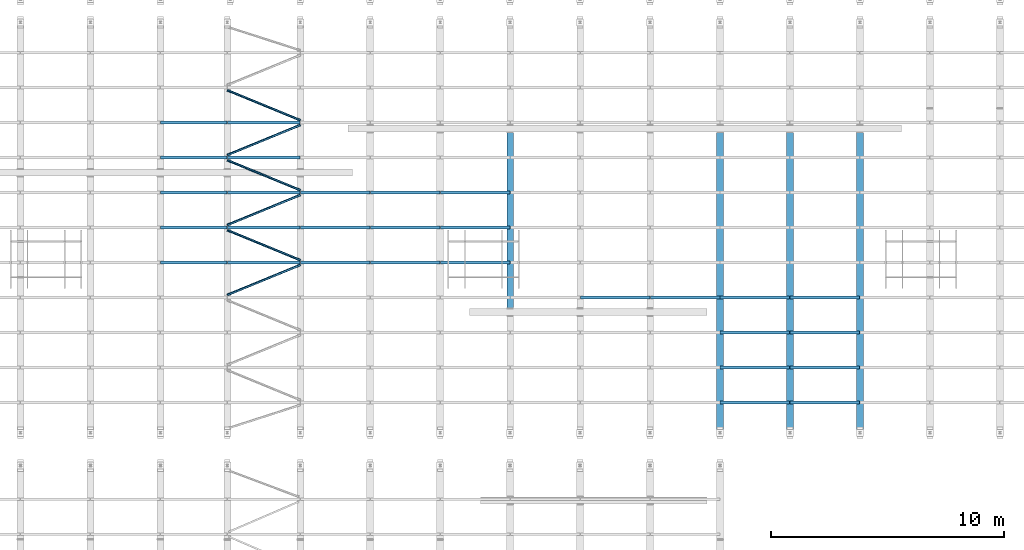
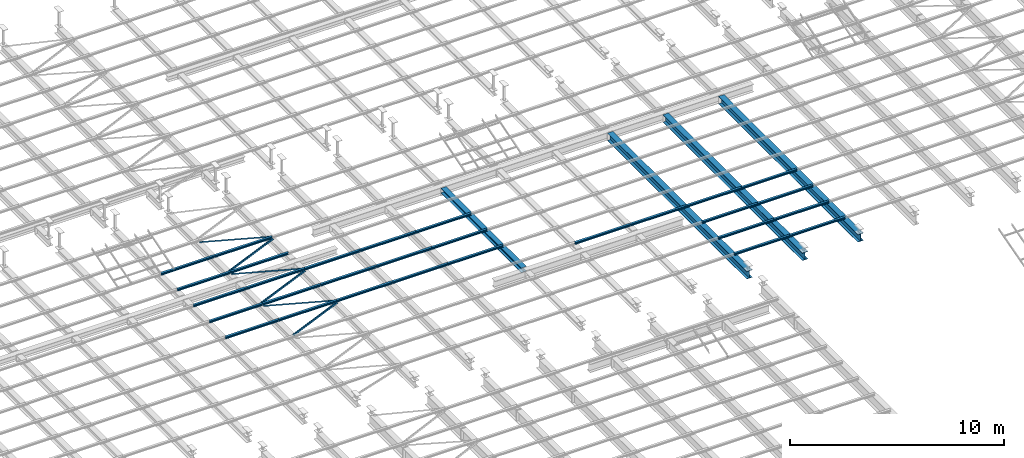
# One storey, part 60 of 139: 39 beams.
"""IFC2X3 building model written with IfcOpenShell, lengths in metres."""

from ifc_helpers import new_model, entity, si_unit, converted_unit, derived_unit, frame, origin, place, context, subcontext, project, spatial, polyline, outline, extrude, material, element, save


model = new_model("IFC2X3")

# Units and contexts
model_context = context("Model", 3, precision=1e-05, world=origin())
body_context = subcontext(model_context, "Body", "Model", "MODEL_VIEW")
ifc_project = project(units=[si_unit("LENGTHUNIT", "METRE"), si_unit("AREAUNIT", "SQUARE_METRE"), si_unit("VOLUMEUNIT", "CUBIC_METRE"), si_unit("MASSUNIT", "GRAM", prefix="KILO"), converted_unit("PLANEANGLEUNIT", "DEGREE", entity("IfcPlaneAngleMeasure", 0.0174532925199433), si_unit("PLANEANGLEUNIT", "RADIAN"), dimensions=[0, 0, 0, 0, 0, 0, 0]), derived_unit("THERMALTRANSMITTANCEUNIT", [(si_unit("POWERUNIT", "WATT"), 1), (si_unit("THERMODYNAMICTEMPERATUREUNIT", "KELVIN"), -1), (si_unit("LENGTHUNIT", "METRE"), -2)]), derived_unit("VOLUMETRICFLOWRATEUNIT", [(si_unit("LENGTHUNIT", "METRE"), 3), (converted_unit("TIMEUNIT", "hour", entity("IfcTimeMeasure", 3600.0), si_unit("TIMEUNIT", "SECOND"), dimensions=[0, 0, 1, 0, 0, 0, 0]), -1), (si_unit("LENGTHUNIT", "METRE"), -1)])], contexts=[model_context])

# Site, building, storey
site_placement = place(None, origin())
site = spatial("IfcSite", under=ifc_project, at=site_placement, Name="TWP_Speiseverteilzentrum SBW VZ II", CompositionType="ELEMENT")
building_placement = place(site_placement, origin())
building = spatial("IfcBuilding", under=site, at=building_placement, Name="Speiseverteilzentrum SBW VZ II", CompositionType="ELEMENT")
storey_placement = place(building_placement, frame((0.0, 0.0, 7.1307)))
storey = spatial("IfcBuildingStorey", under=building, at=storey_placement, Name="Wartung_FFB", CompositionType="ELEMENT", Elevation=7.1307)

# Beams
ifc_material_1 = material(Name="S235")
beam_1_placement = place(storey_placement, frame((58.0500000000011, 65.1695685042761, -0.325), z_axis=(0.0, 0.0, 1.0), x_axis=(-1.0, 0.0, 0.0)))
element("IfcBeam", 1, at=beam_1_placement, inside=storey, material=ifc_material_1, Name="Stahlträger", context=body_context, shape_type="SweptSolid", body=[
    extrude(outline(polyline([(-0.14, 0.135), (-0.14, 0.122), (-0.00400000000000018, 0.122), (-0.00400000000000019, -0.122), (-0.14, -0.122), (-0.14, -0.135), (0.14, -0.135), (0.14, -0.122), (0.00399999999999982, -0.122), (0.00399999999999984, 0.122), (0.14, 0.122), (0.14, 0.135), (-0.14, 0.135)])), frame((0.0, 0.0, 0.0), z_axis=(0.0, 1.0, 0.0), x_axis=(-1.0, 0.0, 0.0)), (0.0, 0.0, 1.0), 7.51492643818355),
])
ifc_material_2 = material(Name="S235")
beam_2_placement = place(storey_placement, frame((67.0500000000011, 52.1500000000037, -0.41), z_axis=(0.0, 0.0, 1.0), x_axis=(1.0, -2.44929359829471e-16, 0.0)))
element("IfcBeam", 2, at=beam_2_placement, inside=storey, material=ifc_material_2, Name="Stahlträger", context=body_context, shape_type="SweptSolid", body=[
    extrude(outline(polyline([(-0.15, 0.22), (-0.15, 0.199), (-0.00574999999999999, 0.199), (-0.00575000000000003, -0.199), (-0.15, -0.199), (-0.15, -0.22), (0.15, -0.22), (0.15, -0.199), (0.00574999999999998, -0.199), (0.00575000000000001, 0.199), (0.15, 0.199), (0.15, 0.22), (-0.15, 0.22)])), frame((0.0, 0.0, 0.0), z_axis=(0.0, 1.0, 0.0), x_axis=(-1.0, 0.0, 0.0)), (0.0, 0.0, 1.0), 13.0195685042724),
])
ifc_material_3 = material(Name="S235")
beam_3_placement = place(storey_placement, frame((70.0500000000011, 52.1500000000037, -0.41), z_axis=(0.0, 0.0, 1.0), x_axis=(1.0, -2.44929359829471e-16, 0.0)))
element("IfcBeam", 3, at=beam_3_placement, inside=storey, material=ifc_material_3, Name="Stahlträger", context=body_context, shape_type="SweptSolid", body=[
    extrude(outline(polyline([(-0.15, 0.22), (-0.15, 0.199), (-0.00574999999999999, 0.199), (-0.00575000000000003, -0.199), (-0.15, -0.199), (-0.15, -0.22), (0.15, -0.22), (0.15, -0.199), (0.00574999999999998, -0.199), (0.00575000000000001, 0.199), (0.15, 0.199), (0.15, 0.22), (-0.15, 0.22)])), frame((0.0, 0.0, 0.0), z_axis=(0.0, 1.0, 0.0), x_axis=(-1.0, 0.0, 0.0)), (0.0, 0.0, 1.0), 13.0195685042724),
])
ifc_material_4 = material(Name="S235")
beam_4_placement = place(storey_placement, frame((73.0500000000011, 52.1500000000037, -0.41), z_axis=(0.0, 0.0, 1.0), x_axis=(1.0, -2.44929359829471e-16, 0.0)))
element("IfcBeam", 4, at=beam_4_placement, inside=storey, material=ifc_material_4, Name="Stahlträger", context=body_context, shape_type="SweptSolid", body=[
    extrude(outline(polyline([(-0.15, 0.22), (-0.15, 0.199), (-0.00574999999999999, 0.199), (-0.00575000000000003, -0.199), (-0.15, -0.199), (-0.15, -0.22), (0.15, -0.22), (0.15, -0.199), (0.00574999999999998, -0.199), (0.00575000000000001, 0.199), (0.15, 0.199), (0.15, 0.22), (-0.15, 0.22)])), frame((0.0, 0.0, 0.0), z_axis=(0.0, 1.0, 0.0), x_axis=(-1.0, 0.0, 0.0)), (0.0, 0.0, 1.0), 13.0195685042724),
])
ifc_material_5 = material(Name="S235")
beam_5_placement = place(storey_placement, frame((49.0600000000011, 62.6011263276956, -0.133), z_axis=(0.0, 0.0, 1.0), x_axis=(0.0, -1.0, 0.0)))
element("IfcBeam", 5, at=beam_5_placement, inside=storey, material=ifc_material_5, Name="Nebenträger", context=body_context, shape_type="SweptSolid", body=[
    extrude(outline(polyline([(-0.06, 0.0570000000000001), (-0.06, 0.0490000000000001), (-0.00249999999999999, 0.0490000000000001), (-0.0025, -0.0489999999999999), (-0.06, -0.0489999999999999), (-0.06, -0.0569999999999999), (0.06, -0.0569999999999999), (0.06, -0.0489999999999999), (0.0025, -0.0489999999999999), (0.00250000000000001, 0.0490000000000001), (0.06, 0.0490000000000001), (0.06, 0.0570000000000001), (-0.06, 0.0570000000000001)])), frame((0.0, 0.0, 0.0), z_axis=(0.0, 1.0, 0.0), x_axis=(-1.0, 0.0, 0.0)), (0.0, 0.0, 1.0), 2.98),
])
ifc_material_6 = material(Name="S235")
beam_6_placement = place(storey_placement, frame((52.0600000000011, 62.6011263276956, -0.133), z_axis=(0.0, 0.0, 1.0), x_axis=(0.0, -1.0, 0.0)))
element("IfcBeam", 6, at=beam_6_placement, inside=storey, material=ifc_material_6, Name="Nebenträger", context=body_context, shape_type="SweptSolid", body=[
    extrude(outline(polyline([(-0.06, 0.0570000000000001), (-0.06, 0.0490000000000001), (-0.00249999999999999, 0.0490000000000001), (-0.0025, -0.0489999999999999), (-0.06, -0.0489999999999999), (-0.06, -0.0569999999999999), (0.06, -0.0569999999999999), (0.06, -0.0489999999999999), (0.0025, -0.0489999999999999), (0.00250000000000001, 0.0490000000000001), (0.06, 0.0490000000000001), (0.06, 0.0570000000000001), (-0.06, 0.0570000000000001)])), frame((0.0, 0.0, 0.0), z_axis=(0.0, 1.0, 0.0), x_axis=(-1.0, 0.0, 0.0)), (0.0, 0.0, 1.0), 2.98),
])
ifc_material_7 = material(Name="S235")
beam_7_placement = place(storey_placement, frame((55.0600000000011, 62.6011263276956, -0.133), z_axis=(0.0, 0.0, 1.0), x_axis=(0.0, -1.0, 0.0)))
element("IfcBeam", 7, at=beam_7_placement, inside=storey, material=ifc_material_7, Name="Nebenträger", context=body_context, shape_type="SweptSolid", body=[
    extrude(outline(polyline([(-0.06, 0.0570000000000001), (-0.06, 0.0490000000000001), (-0.00249999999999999, 0.0490000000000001), (-0.0025, -0.0489999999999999), (-0.06, -0.0489999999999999), (-0.06, -0.0569999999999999), (0.06, -0.0569999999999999), (0.06, -0.0489999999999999), (0.0025, -0.0489999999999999), (0.00250000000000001, 0.0490000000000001), (0.06, 0.0490000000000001), (0.06, 0.0570000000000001), (-0.06, 0.0570000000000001)])), frame((0.0, 0.0, 0.0), z_axis=(0.0, 1.0, 0.0), x_axis=(-1.0, 0.0, 0.0)), (0.0, 0.0, 1.0), 2.98),
])
ifc_material_8 = material(Name="S235")
beam_8_placement = place(storey_placement, frame((49.0600000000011, 61.1011263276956, -0.133), z_axis=(0.0, 0.0, 1.0), x_axis=(0.0, -1.0, 0.0)))
element("IfcBeam", 8, at=beam_8_placement, inside=storey, material=ifc_material_8, Name="Nebenträger", context=body_context, shape_type="SweptSolid", body=[
    extrude(outline(polyline([(-0.06, 0.0570000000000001), (-0.06, 0.0490000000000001), (-0.00249999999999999, 0.0490000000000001), (-0.0025, -0.0489999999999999), (-0.06, -0.0489999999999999), (-0.06, -0.0569999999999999), (0.06, -0.0569999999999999), (0.06, -0.0489999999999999), (0.0025, -0.0489999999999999), (0.00250000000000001, 0.0490000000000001), (0.06, 0.0490000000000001), (0.06, 0.0570000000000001), (-0.06, 0.0570000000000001)])), frame((0.0, 0.0, 0.0), z_axis=(0.0, 1.0, 0.0), x_axis=(-1.0, 0.0, 0.0)), (0.0, 0.0, 1.0), 2.98),
])
ifc_material_9 = material(Name="S235")
beam_9_placement = place(storey_placement, frame((52.0600000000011, 61.1011263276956, -0.133), z_axis=(0.0, 0.0, 1.0), x_axis=(0.0, -1.0, 0.0)))
element("IfcBeam", 9, at=beam_9_placement, inside=storey, material=ifc_material_9, Name="Nebenträger", context=body_context, shape_type="SweptSolid", body=[
    extrude(outline(polyline([(-0.06, 0.0570000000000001), (-0.06, 0.0490000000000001), (-0.00249999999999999, 0.0490000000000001), (-0.0025, -0.0489999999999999), (-0.06, -0.0489999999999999), (-0.06, -0.0569999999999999), (0.06, -0.0569999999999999), (0.06, -0.0489999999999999), (0.0025, -0.0489999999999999), (0.00250000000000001, 0.0490000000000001), (0.06, 0.0490000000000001), (0.06, 0.0570000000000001), (-0.06, 0.0570000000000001)])), frame((0.0, 0.0, 0.0), z_axis=(0.0, 1.0, 0.0), x_axis=(-1.0, 0.0, 0.0)), (0.0, 0.0, 1.0), 2.98),
])
ifc_material_10 = material(Name="S235")
beam_10_placement = place(storey_placement, frame((55.0600000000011, 61.1011263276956, -0.133), z_axis=(0.0, 0.0, 1.0), x_axis=(0.0, -1.0, 0.0)))
element("IfcBeam", 10, at=beam_10_placement, inside=storey, material=ifc_material_10, Name="Nebenträger", context=body_context, shape_type="SweptSolid", body=[
    extrude(outline(polyline([(-0.06, 0.0570000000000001), (-0.06, 0.0490000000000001), (-0.00249999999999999, 0.0490000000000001), (-0.0025, -0.0489999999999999), (-0.06, -0.0489999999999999), (-0.06, -0.0569999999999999), (0.06, -0.0569999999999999), (0.06, -0.0489999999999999), (0.0025, -0.0489999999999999), (0.00250000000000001, 0.0490000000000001), (0.06, 0.0490000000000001), (0.06, 0.0570000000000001), (-0.06, 0.0570000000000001)])), frame((0.0, 0.0, 0.0), z_axis=(0.0, 1.0, 0.0), x_axis=(-1.0, 0.0, 0.0)), (0.0, 0.0, 1.0), 2.98),
])
ifc_material_11 = material(Name="S235")
beam_11_placement = place(storey_placement, frame((49.0600000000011, 59.6011263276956, -0.133), z_axis=(0.0, 0.0, 1.0), x_axis=(0.0, -1.0, 0.0)))
element("IfcBeam", 11, at=beam_11_placement, inside=storey, material=ifc_material_11, Name="Nebenträger", context=body_context, shape_type="SweptSolid", body=[
    extrude(outline(polyline([(-0.06, 0.0570000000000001), (-0.06, 0.0490000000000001), (-0.00249999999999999, 0.0490000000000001), (-0.0025, -0.0489999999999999), (-0.06, -0.0489999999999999), (-0.06, -0.0569999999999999), (0.06, -0.0569999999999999), (0.06, -0.0489999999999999), (0.0025, -0.0489999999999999), (0.00250000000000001, 0.0490000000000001), (0.06, 0.0490000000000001), (0.06, 0.0570000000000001), (-0.06, 0.0570000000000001)])), frame((0.0, 0.0, 0.0), z_axis=(0.0, 1.0, 0.0), x_axis=(-1.0, 0.0, 0.0)), (0.0, 0.0, 1.0), 2.98),
])
ifc_material_12 = material(Name="S235")
beam_12_placement = place(storey_placement, frame((52.0600000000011, 59.6011263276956, -0.133), z_axis=(0.0, 0.0, 1.0), x_axis=(0.0, -1.0, 0.0)))
element("IfcBeam", 12, at=beam_12_placement, inside=storey, material=ifc_material_12, Name="Nebenträger", context=body_context, shape_type="SweptSolid", body=[
    extrude(outline(polyline([(-0.06, 0.0570000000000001), (-0.06, 0.0490000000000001), (-0.00249999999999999, 0.0490000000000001), (-0.0025, -0.0489999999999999), (-0.06, -0.0489999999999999), (-0.06, -0.0569999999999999), (0.06, -0.0569999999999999), (0.06, -0.0489999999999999), (0.0025, -0.0489999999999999), (0.00250000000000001, 0.0490000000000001), (0.06, 0.0490000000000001), (0.06, 0.0570000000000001), (-0.06, 0.0570000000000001)])), frame((0.0, 0.0, 0.0), z_axis=(0.0, 1.0, 0.0), x_axis=(-1.0, 0.0, 0.0)), (0.0, 0.0, 1.0), 2.98),
])
ifc_material_13 = material(Name="S235")
beam_13_placement = place(storey_placement, frame((55.0600000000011, 59.6011263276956, -0.133), z_axis=(0.0, 0.0, 1.0), x_axis=(0.0, -1.0, 0.0)))
element("IfcBeam", 13, at=beam_13_placement, inside=storey, material=ifc_material_13, Name="Nebenträger", context=body_context, shape_type="SweptSolid", body=[
    extrude(outline(polyline([(-0.06, 0.0570000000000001), (-0.06, 0.0490000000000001), (-0.00249999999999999, 0.0490000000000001), (-0.0025, -0.0489999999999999), (-0.06, -0.0489999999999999), (-0.06, -0.0569999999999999), (0.06, -0.0569999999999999), (0.06, -0.0489999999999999), (0.0025, -0.0489999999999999), (0.00250000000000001, 0.0490000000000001), (0.06, 0.0490000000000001), (0.06, 0.0570000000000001), (-0.06, 0.0570000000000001)])), frame((0.0, 0.0, 0.0), z_axis=(0.0, 1.0, 0.0), x_axis=(-1.0, 0.0, 0.0)), (0.0, 0.0, 1.0), 2.98),
])
ifc_material_14 = material(Name="S235")
beam_14_placement = place(storey_placement, frame((64.0600000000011, 58.1011263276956, -0.133), z_axis=(0.0, 0.0, 1.0), x_axis=(0.0, -1.0, 0.0)))
element("IfcBeam", 14, at=beam_14_placement, inside=storey, material=ifc_material_14, Name="Nebenträger", context=body_context, shape_type="SweptSolid", body=[
    extrude(outline(polyline([(-0.06, 0.0570000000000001), (-0.06, 0.0490000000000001), (-0.00249999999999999, 0.0490000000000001), (-0.0025, -0.0489999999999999), (-0.06, -0.0489999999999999), (-0.06, -0.0569999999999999), (0.06, -0.0569999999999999), (0.06, -0.0489999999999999), (0.0025, -0.0489999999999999), (0.00250000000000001, 0.0490000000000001), (0.06, 0.0490000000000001), (0.06, 0.0570000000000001), (-0.06, 0.0570000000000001)])), frame((0.0, 0.0, 0.0), z_axis=(0.0, 1.0, 0.0), x_axis=(-1.0, 0.0, 0.0)), (0.0, 0.0, 1.0), 2.98000000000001),
])
ifc_material_15 = material(Name="S235")
beam_15_placement = place(storey_placement, frame((67.0600000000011, 58.1011263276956, -0.133), z_axis=(0.0, 0.0, 1.0), x_axis=(0.0, -1.0, 0.0)))
element("IfcBeam", 15, at=beam_15_placement, inside=storey, material=ifc_material_15, Name="Nebenträger", context=body_context, shape_type="SweptSolid", body=[
    extrude(outline(polyline([(-0.06, 0.0570000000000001), (-0.06, 0.0490000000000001), (-0.00249999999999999, 0.0490000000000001), (-0.0025, -0.0489999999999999), (-0.06, -0.0489999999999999), (-0.06, -0.0569999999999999), (0.06, -0.0569999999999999), (0.06, -0.0489999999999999), (0.0025, -0.0489999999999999), (0.00250000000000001, 0.0490000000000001), (0.06, 0.0490000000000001), (0.06, 0.0570000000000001), (-0.06, 0.0570000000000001)])), frame((0.0, 0.0, 0.0), z_axis=(0.0, 1.0, 0.0), x_axis=(-1.0, 0.0, 0.0)), (0.0, 0.0, 1.0), 2.98),
])
ifc_material_16 = material(Name="S235")
beam_16_placement = place(storey_placement, frame((70.0600000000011, 58.1011263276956, -0.133), z_axis=(0.0, 0.0, 1.0), x_axis=(0.0, -1.0, 0.0)))
element("IfcBeam", 16, at=beam_16_placement, inside=storey, material=ifc_material_16, Name="Nebenträger", context=body_context, shape_type="SweptSolid", body=[
    extrude(outline(polyline([(-0.06, 0.0570000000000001), (-0.06, 0.0490000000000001), (-0.00249999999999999, 0.0490000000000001), (-0.0025, -0.0489999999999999), (-0.06, -0.0489999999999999), (-0.06, -0.0569999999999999), (0.06, -0.0569999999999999), (0.06, -0.0489999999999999), (0.0025, -0.0489999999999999), (0.00250000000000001, 0.0490000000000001), (0.06, 0.0490000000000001), (0.06, 0.0570000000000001), (-0.06, 0.0570000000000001)])), frame((0.0, 0.0, 0.0), z_axis=(0.0, 1.0, 0.0), x_axis=(-1.0, 0.0, 0.0)), (0.0, 0.0, 1.0), 2.98),
])
ifc_material_17 = material(Name="S235")
beam_17_placement = place(storey_placement, frame((61.0600000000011, 58.1011263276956, -0.133), z_axis=(0.0, 0.0, 1.0), x_axis=(0.0, -1.0, 0.0)))
element("IfcBeam", 17, at=beam_17_placement, inside=storey, material=ifc_material_17, Name="Nebenträger", context=body_context, shape_type="SweptSolid", body=[
    extrude(outline(polyline([(-0.06, 0.0570000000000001), (-0.06, 0.0490000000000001), (-0.00249999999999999, 0.0490000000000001), (-0.0025, -0.0489999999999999), (-0.06, -0.0489999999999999), (-0.06, -0.0569999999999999), (0.06, -0.0569999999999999), (0.06, -0.0489999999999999), (0.0025, -0.0489999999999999), (0.00250000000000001, 0.0490000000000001), (0.06, 0.0490000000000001), (0.06, 0.0570000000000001), (-0.06, 0.0570000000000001)])), frame((0.0, 0.0, 0.0), z_axis=(0.0, 1.0, 0.0), x_axis=(-1.0, 0.0, 0.0)), (0.0, 0.0, 1.0), 2.98),
])
ifc_material_18 = material(Name="S235")
beam_18_placement = place(storey_placement, frame((67.0600000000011, 56.6011263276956, -0.133), z_axis=(0.0, 0.0, 1.0), x_axis=(0.0, -1.0, 0.0)))
element("IfcBeam", 18, at=beam_18_placement, inside=storey, material=ifc_material_18, Name="Nebenträger", context=body_context, shape_type="SweptSolid", body=[
    extrude(outline(polyline([(-0.06, 0.0570000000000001), (-0.06, 0.0490000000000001), (-0.00249999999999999, 0.0490000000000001), (-0.0025, -0.0489999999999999), (-0.06, -0.0489999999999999), (-0.06, -0.0569999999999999), (0.06, -0.0569999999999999), (0.06, -0.0489999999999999), (0.0025, -0.0489999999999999), (0.00250000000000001, 0.0490000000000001), (0.06, 0.0490000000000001), (0.06, 0.0570000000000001), (-0.06, 0.0570000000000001)])), frame((0.0, 0.0, 0.0), z_axis=(0.0, 1.0, 0.0), x_axis=(-1.0, 0.0, 0.0)), (0.0, 0.0, 1.0), 2.98),
])
ifc_material_19 = material(Name="S235")
beam_19_placement = place(storey_placement, frame((70.0600000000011, 56.6011263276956, -0.133), z_axis=(0.0, 0.0, 1.0), x_axis=(0.0, -1.0, 0.0)))
element("IfcBeam", 19, at=beam_19_placement, inside=storey, material=ifc_material_19, Name="Nebenträger", context=body_context, shape_type="SweptSolid", body=[
    extrude(outline(polyline([(-0.06, 0.0570000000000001), (-0.06, 0.0490000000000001), (-0.00249999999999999, 0.0490000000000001), (-0.0025, -0.0489999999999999), (-0.06, -0.0489999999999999), (-0.06, -0.0569999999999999), (0.06, -0.0569999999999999), (0.06, -0.0489999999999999), (0.0025, -0.0489999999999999), (0.00250000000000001, 0.0490000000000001), (0.06, 0.0490000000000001), (0.06, 0.0570000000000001), (-0.06, 0.0570000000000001)])), frame((0.0, 0.0, 0.0), z_axis=(0.0, 1.0, 0.0), x_axis=(-1.0, 0.0, 0.0)), (0.0, 0.0, 1.0), 2.98),
])
ifc_material_20 = material(Name="S235")
beam_20_placement = place(storey_placement, frame((67.0600000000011, 55.1011263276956, -0.133), z_axis=(0.0, 0.0, 1.0), x_axis=(0.0, -1.0, 0.0)))
element("IfcBeam", 20, at=beam_20_placement, inside=storey, material=ifc_material_20, Name="Nebenträger", context=body_context, shape_type="SweptSolid", body=[
    extrude(outline(polyline([(-0.06, 0.0570000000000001), (-0.06, 0.0490000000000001), (-0.00249999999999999, 0.0490000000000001), (-0.0025, -0.0489999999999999), (-0.06, -0.0489999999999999), (-0.06, -0.0569999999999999), (0.06, -0.0569999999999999), (0.06, -0.0489999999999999), (0.0025, -0.0489999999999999), (0.00250000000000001, 0.0490000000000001), (0.06, 0.0490000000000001), (0.06, 0.0570000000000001), (-0.06, 0.0570000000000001)])), frame((0.0, 0.0, 0.0), z_axis=(0.0, 1.0, 0.0), x_axis=(-1.0, 0.0, 0.0)), (0.0, 0.0, 1.0), 2.98),
])
ifc_material_21 = material(Name="S235")
beam_21_placement = place(storey_placement, frame((70.0600000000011, 55.1011263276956, -0.133), z_axis=(0.0, 0.0, 1.0), x_axis=(0.0, -1.0, 0.0)))
element("IfcBeam", 21, at=beam_21_placement, inside=storey, material=ifc_material_21, Name="Nebenträger", context=body_context, shape_type="SweptSolid", body=[
    extrude(outline(polyline([(-0.06, 0.0570000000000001), (-0.06, 0.0490000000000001), (-0.00249999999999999, 0.0490000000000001), (-0.0025, -0.0489999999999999), (-0.06, -0.0489999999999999), (-0.06, -0.0569999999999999), (0.06, -0.0569999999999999), (0.06, -0.0489999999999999), (0.0025, -0.0489999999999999), (0.00250000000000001, 0.0490000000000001), (0.06, 0.0490000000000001), (0.06, 0.0570000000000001), (-0.06, 0.0570000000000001)])), frame((0.0, 0.0, 0.0), z_axis=(0.0, 1.0, 0.0), x_axis=(-1.0, 0.0, 0.0)), (0.0, 0.0, 1.0), 2.98),
])
ifc_material_22 = material(Name="S235")
beam_22_placement = place(storey_placement, frame((67.0600000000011, 53.6011263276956, -0.133), z_axis=(0.0, 0.0, 1.0), x_axis=(0.0, -1.0, 0.0)))
element("IfcBeam", 22, at=beam_22_placement, inside=storey, material=ifc_material_22, Name="Nebenträger", context=body_context, shape_type="SweptSolid", body=[
    extrude(outline(polyline([(-0.06, 0.0570000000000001), (-0.06, 0.0490000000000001), (-0.00249999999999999, 0.0490000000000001), (-0.0025, -0.0489999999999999), (-0.06, -0.0489999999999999), (-0.06, -0.0569999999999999), (0.06, -0.0569999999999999), (0.06, -0.0489999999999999), (0.0025, -0.0489999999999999), (0.00250000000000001, 0.0490000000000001), (0.06, 0.0490000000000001), (0.06, 0.0570000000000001), (-0.06, 0.0570000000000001)])), frame((0.0, 0.0, 0.0), z_axis=(0.0, 1.0, 0.0), x_axis=(-1.0, 0.0, 0.0)), (0.0, 0.0, 1.0), 2.98),
])
ifc_material_23 = material(Name="S235")
beam_23_placement = place(storey_placement, frame((70.0600000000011, 53.6011263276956, -0.133), z_axis=(0.0, 0.0, 1.0), x_axis=(0.0, -1.0, 0.0)))
element("IfcBeam", 23, at=beam_23_placement, inside=storey, material=ifc_material_23, Name="Nebenträger", context=body_context, shape_type="SweptSolid", body=[
    extrude(outline(polyline([(-0.06, 0.0570000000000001), (-0.06, 0.0490000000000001), (-0.00249999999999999, 0.0490000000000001), (-0.0025, -0.0489999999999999), (-0.06, -0.0489999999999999), (-0.06, -0.0569999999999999), (0.06, -0.0569999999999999), (0.06, -0.0489999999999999), (0.0025, -0.0489999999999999), (0.00250000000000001, 0.0490000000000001), (0.06, 0.0490000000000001), (0.06, 0.0570000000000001), (-0.06, 0.0570000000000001)])), frame((0.0, 0.0, 0.0), z_axis=(0.0, 1.0, 0.0), x_axis=(-1.0, 0.0, 0.0)), (0.0, 0.0, 1.0), 2.98),
])
ifc_material_24 = material(Name="S235")
beam_24_placement = place(storey_placement, frame((43.0600000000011, 65.6011263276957, -0.133), z_axis=(0.0, 0.0, 1.0), x_axis=(0.0, -1.0, 0.0)))
element("IfcBeam", 24, at=beam_24_placement, inside=storey, material=ifc_material_24, Name="Nebenträger", context=body_context, shape_type="SweptSolid", body=[
    extrude(outline(polyline([(-0.06, 0.0570000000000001), (-0.06, 0.0490000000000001), (-0.00249999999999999, 0.0490000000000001), (-0.0025, -0.0489999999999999), (-0.06, -0.0489999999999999), (-0.06, -0.0569999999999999), (0.06, -0.0569999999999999), (0.06, -0.0489999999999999), (0.0025, -0.0489999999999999), (0.00250000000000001, 0.0490000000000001), (0.06, 0.0490000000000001), (0.06, 0.0570000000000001), (-0.06, 0.0570000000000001)])), frame((0.0, 0.0, 0.0), z_axis=(0.0, 1.0, 0.0), x_axis=(-1.0, 0.0, 0.0)), (0.0, 0.0, 1.0), 2.85),
])
ifc_material_25 = material(Name="S235")
beam_25_placement = place(storey_placement, frame((45.9300000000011, 65.6011263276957, -0.133), z_axis=(0.0, 0.0, 1.0), x_axis=(0.0, -1.0, 0.0)))
element("IfcBeam", 25, at=beam_25_placement, inside=storey, material=ifc_material_25, Name="Nebenträger", context=body_context, shape_type="SweptSolid", body=[
    extrude(outline(polyline([(-0.06, 0.0570000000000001), (-0.06, 0.0490000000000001), (-0.00249999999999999, 0.0490000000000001), (-0.0025, -0.0489999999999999), (-0.06, -0.0489999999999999), (-0.06, -0.0569999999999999), (0.06, -0.0569999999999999), (0.06, -0.0489999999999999), (0.0025, -0.0489999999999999), (0.00250000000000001, 0.0490000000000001), (0.06, 0.0490000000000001), (0.06, 0.0570000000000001), (-0.06, 0.0570000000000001)])), frame((0.0, 0.0, 0.0), z_axis=(0.0, 1.0, 0.0), x_axis=(-1.0, 0.0, 0.0)), (0.0, 0.0, 1.0), 3.11),
])
ifc_material_26 = material(Name="S235")
beam_26_placement = place(storey_placement, frame((43.0600000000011, 64.1011263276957, -0.133), z_axis=(0.0, 0.0, 1.0), x_axis=(0.0, -1.0, 0.0)))
element("IfcBeam", 26, at=beam_26_placement, inside=storey, material=ifc_material_26, Name="Nebenträger", context=body_context, shape_type="SweptSolid", body=[
    extrude(outline(polyline([(-0.06, 0.0570000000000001), (-0.06, 0.0490000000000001), (-0.00249999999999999, 0.0490000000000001), (-0.0025, -0.0489999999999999), (-0.06, -0.0489999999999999), (-0.06, -0.0569999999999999), (0.06, -0.0569999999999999), (0.06, -0.0489999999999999), (0.0025, -0.0489999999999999), (0.00250000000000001, 0.0490000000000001), (0.06, 0.0490000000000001), (0.06, 0.0570000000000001), (-0.06, 0.0570000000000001)])), frame((0.0, 0.0, 0.0), z_axis=(0.0, 1.0, 0.0), x_axis=(-1.0, 0.0, 0.0)), (0.0, 0.0, 1.0), 2.85),
])
ifc_material_27 = material(Name="S235")
beam_27_placement = place(storey_placement, frame((45.9300000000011, 64.1011263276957, -0.133), z_axis=(0.0, 0.0, 1.0), x_axis=(0.0, -1.0, 0.0)))
element("IfcBeam", 27, at=beam_27_placement, inside=storey, material=ifc_material_27, Name="Nebenträger", context=body_context, shape_type="SweptSolid", body=[
    extrude(outline(polyline([(-0.06, 0.0570000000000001), (-0.06, 0.0490000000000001), (-0.00249999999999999, 0.0490000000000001), (-0.0025, -0.0489999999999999), (-0.06, -0.0489999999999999), (-0.06, -0.0569999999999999), (0.06, -0.0569999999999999), (0.06, -0.0489999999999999), (0.0025, -0.0489999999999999), (0.00250000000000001, 0.0490000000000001), (0.06, 0.0490000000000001), (0.06, 0.0570000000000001), (-0.06, 0.0570000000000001)])), frame((0.0, 0.0, 0.0), z_axis=(0.0, 1.0, 0.0), x_axis=(-1.0, 0.0, 0.0)), (0.0, 0.0, 1.0), 3.11),
])
ifc_material_28 = material(Name="S235")
beam_28_placement = place(storey_placement, frame((43.0600000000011, 62.6011263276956, -0.133), z_axis=(0.0, 0.0, 1.0), x_axis=(0.0, -1.0, 0.0)))
element("IfcBeam", 28, at=beam_28_placement, inside=storey, material=ifc_material_28, Name="Nebenträger", context=body_context, shape_type="SweptSolid", body=[
    extrude(outline(polyline([(-0.06, 0.0570000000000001), (-0.06, 0.0490000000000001), (-0.00249999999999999, 0.0490000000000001), (-0.0025, -0.0489999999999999), (-0.06, -0.0489999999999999), (-0.06, -0.0569999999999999), (0.06, -0.0569999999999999), (0.06, -0.0489999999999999), (0.0025, -0.0489999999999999), (0.00250000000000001, 0.0490000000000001), (0.06, 0.0490000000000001), (0.06, 0.0570000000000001), (-0.06, 0.0570000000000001)])), frame((0.0, 0.0, 0.0), z_axis=(0.0, 1.0, 0.0), x_axis=(-1.0, 0.0, 0.0)), (0.0, 0.0, 1.0), 2.85),
])
ifc_material_29 = material(Name="S235")
beam_29_placement = place(storey_placement, frame((45.9300000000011, 62.6011263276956, -0.133), z_axis=(0.0, 0.0, 1.0), x_axis=(0.0, -1.0, 0.0)))
element("IfcBeam", 29, at=beam_29_placement, inside=storey, material=ifc_material_29, Name="Nebenträger", context=body_context, shape_type="SweptSolid", body=[
    extrude(outline(polyline([(-0.06, 0.0570000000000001), (-0.06, 0.0490000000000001), (-0.00249999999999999, 0.0490000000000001), (-0.0025, -0.0489999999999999), (-0.06, -0.0489999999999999), (-0.06, -0.0569999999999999), (0.06, -0.0569999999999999), (0.06, -0.0489999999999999), (0.0025, -0.0489999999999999), (0.00250000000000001, 0.0490000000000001), (0.06, 0.0490000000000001), (0.06, 0.0570000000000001), (-0.06, 0.0570000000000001)])), frame((0.0, 0.0, 0.0), z_axis=(0.0, 1.0, 0.0), x_axis=(-1.0, 0.0, 0.0)), (0.0, 0.0, 1.0), 3.11),
])
ifc_material_30 = material(Name="S235")
beam_30_placement = place(storey_placement, frame((43.0600000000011, 61.1011263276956, -0.133), z_axis=(0.0, 0.0, 1.0), x_axis=(0.0, -1.0, 0.0)))
element("IfcBeam", 30, at=beam_30_placement, inside=storey, material=ifc_material_30, Name="Nebenträger", context=body_context, shape_type="SweptSolid", body=[
    extrude(outline(polyline([(-0.06, 0.0570000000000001), (-0.06, 0.0490000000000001), (-0.00249999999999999, 0.0490000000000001), (-0.0025, -0.0489999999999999), (-0.06, -0.0489999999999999), (-0.06, -0.0569999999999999), (0.06, -0.0569999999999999), (0.06, -0.0489999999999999), (0.0025, -0.0489999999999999), (0.00250000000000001, 0.0490000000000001), (0.06, 0.0490000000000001), (0.06, 0.0570000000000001), (-0.06, 0.0570000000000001)])), frame((0.0, 0.0, 0.0), z_axis=(0.0, 1.0, 0.0), x_axis=(-1.0, 0.0, 0.0)), (0.0, 0.0, 1.0), 2.85),
])
ifc_material_31 = material(Name="S235")
beam_31_placement = place(storey_placement, frame((45.9300000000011, 61.1011263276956, -0.133), z_axis=(0.0, 0.0, 1.0), x_axis=(0.0, -1.0, 0.0)))
element("IfcBeam", 31, at=beam_31_placement, inside=storey, material=ifc_material_31, Name="Nebenträger", context=body_context, shape_type="SweptSolid", body=[
    extrude(outline(polyline([(-0.06, 0.0570000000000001), (-0.06, 0.0490000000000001), (-0.00249999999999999, 0.0490000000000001), (-0.0025, -0.0489999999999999), (-0.06, -0.0489999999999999), (-0.06, -0.0569999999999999), (0.06, -0.0569999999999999), (0.06, -0.0489999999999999), (0.0025, -0.0489999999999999), (0.00250000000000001, 0.0490000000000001), (0.06, 0.0490000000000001), (0.06, 0.0570000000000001), (-0.06, 0.0570000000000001)])), frame((0.0, 0.0, 0.0), z_axis=(0.0, 1.0, 0.0), x_axis=(-1.0, 0.0, 0.0)), (0.0, 0.0, 1.0), 3.11),
])
ifc_material_32 = material(Name="S235")
beam_32_placement = place(storey_placement, frame((43.0600000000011, 59.6011263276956, -0.133), z_axis=(0.0, 0.0, 1.0), x_axis=(0.0, -1.0, 0.0)))
element("IfcBeam", 32, at=beam_32_placement, inside=storey, material=ifc_material_32, Name="Nebenträger", context=body_context, shape_type="SweptSolid", body=[
    extrude(outline(polyline([(-0.06, 0.0570000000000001), (-0.06, 0.0490000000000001), (-0.00249999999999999, 0.0490000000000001), (-0.0025, -0.0489999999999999), (-0.06, -0.0489999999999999), (-0.06, -0.0569999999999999), (0.06, -0.0569999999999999), (0.06, -0.0489999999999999), (0.0025, -0.0489999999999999), (0.00250000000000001, 0.0490000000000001), (0.06, 0.0490000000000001), (0.06, 0.0570000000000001), (-0.06, 0.0570000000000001)])), frame((0.0, 0.0, 0.0), z_axis=(0.0, 1.0, 0.0), x_axis=(-1.0, 0.0, 0.0)), (0.0, 0.0, 1.0), 2.85),
])
ifc_material_33 = material(Name="S235")
beam_33_placement = place(storey_placement, frame((45.9300000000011, 59.6011263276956, -0.133), z_axis=(0.0, 0.0, 1.0), x_axis=(0.0, -1.0, 0.0)))
element("IfcBeam", 33, at=beam_33_placement, inside=storey, material=ifc_material_33, Name="Nebenträger", context=body_context, shape_type="SweptSolid", body=[
    extrude(outline(polyline([(-0.06, 0.0570000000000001), (-0.06, 0.0490000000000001), (-0.00249999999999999, 0.0490000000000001), (-0.0025, -0.0489999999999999), (-0.06, -0.0489999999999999), (-0.06, -0.0569999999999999), (0.06, -0.0569999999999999), (0.06, -0.0489999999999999), (0.0025, -0.0489999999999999), (0.00250000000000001, 0.0490000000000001), (0.06, 0.0490000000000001), (0.06, 0.0570000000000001), (-0.06, 0.0570000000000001)])), frame((0.0, 0.0, 0.0), z_axis=(0.0, 1.0, 0.0), x_axis=(-1.0, 0.0, 0.0)), (0.0, 0.0, 1.0), 3.11),
])
ifc_material_34 = material(Name="S235")
beam_34_placement = place(storey_placement, frame((45.9169632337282, 66.9733457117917, -0.167052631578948), z_axis=(0.0, 0.0, 1.0), x_axis=(-0.38022466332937, -0.924894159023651, 0.0)))
element("IfcBeam", 34, at=beam_34_placement, inside=storey, material=ifc_material_34, Name="Kreuzverband", context=body_context, shape_type="SweptSolid", body=[
    extrude(outline(polyline([(0.0570526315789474, -0.0229473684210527), (0.0570526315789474, -0.0149473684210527), (-0.0149473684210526, -0.0149473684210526), (-0.0149473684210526, 0.0570526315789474), (-0.0229473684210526, 0.0570526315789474), (-0.0229473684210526, -0.0229473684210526), (0.0570526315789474, -0.0229473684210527)])), frame((0.0, 0.0, 0.0), z_axis=(0.0, 0.999999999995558, 0.0), x_axis=(-1.0, 0.0, 0.0)), (0.0, 0.0, 1.0), 3.38000000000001),
])
ifc_material_35 = material(Name="S235")
beam_35_placement = place(storey_placement, frame((45.9169632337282, 64.2289069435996, -0.167052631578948), z_axis=(0.0, 0.0, 1.0), x_axis=(0.380224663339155, -0.924894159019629, 0.0)))
element("IfcBeam", 35, at=beam_35_placement, inside=storey, material=ifc_material_35, Name="Kreuzverband", context=body_context, shape_type="SweptSolid", body=[
    extrude(outline(polyline([(0.0229473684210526, -0.0229473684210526), (0.0229473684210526, 0.0570526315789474), (0.0149473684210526, 0.0570526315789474), (0.0149473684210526, -0.0149473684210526), (-0.0570526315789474, -0.0149473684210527), (-0.0570526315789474, -0.0229473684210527), (0.0229473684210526, -0.0229473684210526)])), frame((0.0, 0.0, 0.0), z_axis=(0.0, 0.999999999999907, 0.0), x_axis=(-1.0, 0.0, 0.0)), (0.0, 0.0, 1.0), 3.38000000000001),
])
ifc_material_36 = material(Name="S235")
beam_36_placement = place(storey_placement, frame((45.9169632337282, 63.9733457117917, -0.167052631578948), z_axis=(0.0, 0.0, 1.0), x_axis=(-0.38022466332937, -0.924894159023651, 0.0)))
element("IfcBeam", 36, at=beam_36_placement, inside=storey, material=ifc_material_36, Name="Kreuzverband", context=body_context, shape_type="SweptSolid", body=[
    extrude(outline(polyline([(0.0570526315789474, -0.0229473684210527), (0.0570526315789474, -0.0149473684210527), (-0.0149473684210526, -0.0149473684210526), (-0.0149473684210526, 0.0570526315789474), (-0.0229473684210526, 0.0570526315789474), (-0.0229473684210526, -0.0229473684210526), (0.0570526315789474, -0.0229473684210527)])), frame((0.0, 0.0, 0.0), z_axis=(0.0, 0.999999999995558, 0.0), x_axis=(-1.0, 0.0, 0.0)), (0.0, 0.0, 1.0), 3.38000000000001),
])
ifc_material_37 = material(Name="S235")
beam_37_placement = place(storey_placement, frame((45.9169632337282, 61.2289069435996, -0.167052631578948), z_axis=(0.0, 0.0, 1.0), x_axis=(0.380224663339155, -0.924894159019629, 0.0)))
element("IfcBeam", 37, at=beam_37_placement, inside=storey, material=ifc_material_37, Name="Kreuzverband", context=body_context, shape_type="SweptSolid", body=[
    extrude(outline(polyline([(0.0229473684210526, -0.0229473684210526), (0.0229473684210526, 0.0570526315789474), (0.0149473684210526, 0.0570526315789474), (0.0149473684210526, -0.0149473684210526), (-0.0570526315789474, -0.0149473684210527), (-0.0570526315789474, -0.0229473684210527), (0.0229473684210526, -0.0229473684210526)])), frame((0.0, 0.0, 0.0), z_axis=(0.0, 0.999999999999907, 0.0), x_axis=(-1.0, 0.0, 0.0)), (0.0, 0.0, 1.0), 3.38000000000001),
])
ifc_material_38 = material(Name="S235")
beam_38_placement = place(storey_placement, frame((45.9169632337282, 60.9733457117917, -0.167052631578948), z_axis=(0.0, 0.0, 1.0), x_axis=(-0.38022466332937, -0.924894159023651, 0.0)))
element("IfcBeam", 38, at=beam_38_placement, inside=storey, material=ifc_material_38, Name="Kreuzverband", context=body_context, shape_type="SweptSolid", body=[
    extrude(outline(polyline([(0.0570526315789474, -0.0229473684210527), (0.0570526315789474, -0.0149473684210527), (-0.0149473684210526, -0.0149473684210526), (-0.0149473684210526, 0.0570526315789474), (-0.0229473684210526, 0.0570526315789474), (-0.0229473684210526, -0.0229473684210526), (0.0570526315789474, -0.0229473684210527)])), frame((0.0, 0.0, 0.0), z_axis=(0.0, 0.999999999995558, 0.0), x_axis=(-1.0, 0.0, 0.0)), (0.0, 0.0, 1.0), 3.38000000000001),
])
ifc_material_39 = material(Name="S235")
beam_39_placement = place(storey_placement, frame((45.9169632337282, 58.2289069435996, -0.167052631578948), z_axis=(0.0, 0.0, 1.0), x_axis=(0.380224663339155, -0.924894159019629, 0.0)))
element("IfcBeam", 39, at=beam_39_placement, inside=storey, material=ifc_material_39, Name="Kreuzverband", context=body_context, shape_type="SweptSolid", body=[
    extrude(outline(polyline([(0.0229473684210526, -0.0229473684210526), (0.0229473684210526, 0.0570526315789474), (0.0149473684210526, 0.0570526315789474), (0.0149473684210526, -0.0149473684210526), (-0.0570526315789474, -0.0149473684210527), (-0.0570526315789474, -0.0229473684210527), (0.0229473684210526, -0.0229473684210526)])), frame((0.0, 0.0, 0.0), z_axis=(0.0, 0.999999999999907, 0.0), x_axis=(-1.0, 0.0, 0.0)), (0.0, 0.0, 1.0), 3.38000000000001),
])

save(model, "model.ifc")
